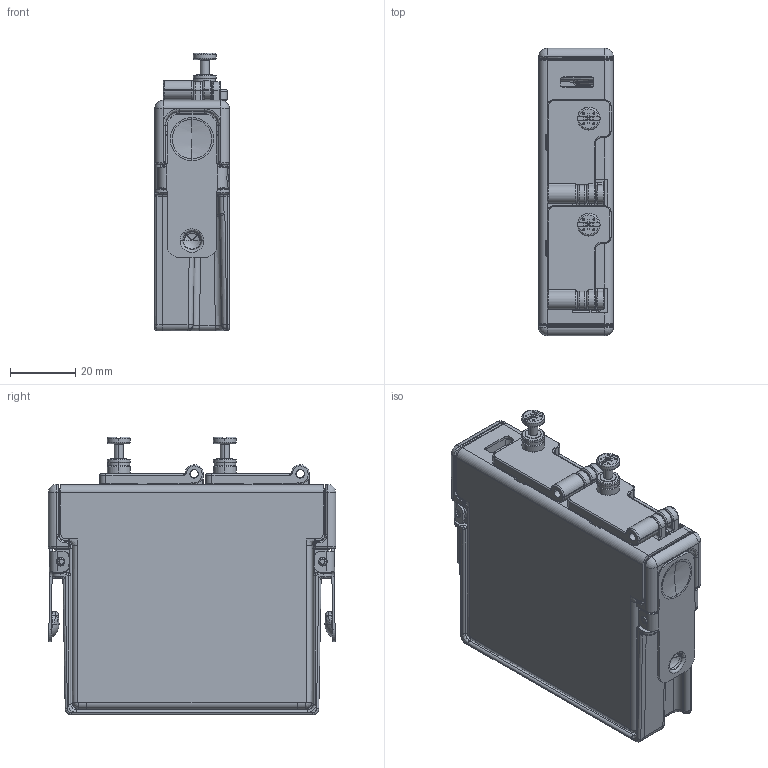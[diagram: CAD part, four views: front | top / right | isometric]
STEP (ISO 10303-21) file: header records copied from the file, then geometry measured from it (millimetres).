
FILE_DESCRIPTION((''),'2;1');
FILE_NAME('CD_CRIO-9802','2008-08-18T',('scarrasc'),(''),'PRO/ENGINEER BY PARAMETRIC TECHNOLOGY CORPORATION, 2006300','PRO/ENGINEER BY PARAMETRIC TECHNOLOGY CORPORATION, 2006300','');
FILE_SCHEMA(('CONFIG_CONTROL_DESIGN'));
Products named in the file (1): CD_CRIO-9802
Bounding box: 22.86 x 88.11 x 85.17 mm (x, y, z)
Volume: 37852.3 mm3; surface area: 46611.4 mm2
Topology: 12 solids, 12 shells, 1701 faces, 4095 edges, 2381 vertices
Faces by surface type: cylinder 641, plane 450, bspline 329, torus 147, sphere 70, cone 58, extrusion 6
Entity records: 77298 total; most frequent: CARTESIAN_POINT 40239, ORIENTED_EDGE 8086, DIRECTION 7250, EDGE_CURVE 4043, AXIS2_PLACEMENT_3D 2745, VERTEX_POINT 2381, EDGE_LOOP 1770, VECTOR 1760
